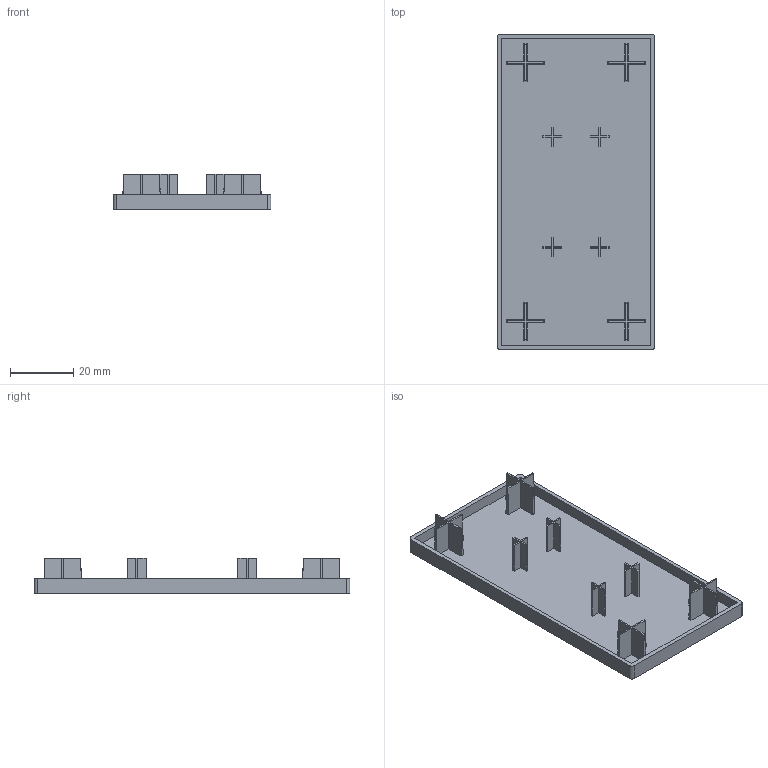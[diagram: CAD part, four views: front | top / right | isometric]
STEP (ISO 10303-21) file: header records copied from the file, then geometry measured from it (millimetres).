
FILE_DESCRIPTION(/* description */ (''),/* implementation_level */ '2;1');
FILE_NAME(/* name */ '\\AM-PUBLIC\Share\02.新型錄-2021\AM8系列\8系列-3D\02.8系列-AMC-端蓋\AMC-50100(B).stp',/* time_stamp */ '2021-07-21T11:36:58+08:00',/* author */ ('AM'),/* organization */ (''),/* preprocessor_version */ 'ST-DEVELOPER v16.5',/* originating_system */ 'Autodesk Inventor 2017',/* authorisation */ '');
FILE_SCHEMA (('AUTOMOTIVE_DESIGN { 1 0 10303 214 3 1 1 }'));
Length unit declared in the file: millimetre
Products named in the file (1): 2354-ENC50100-8
Bounding box: 50 x 100 x 11.3 mm (x, y, z)
Volume: 8814.8 mm3; surface area: 15342.8 mm2
Topology: 1 solids, 1 shells, 119 faces, 324 edges, 216 vertices
Faces by surface type: plane 99, cone 16, cylinder 4
Entity records: 3755 total; most frequent: CARTESIAN_POINT 724, ORIENTED_EDGE 648, DIRECTION 572, EDGE_CURVE 324, LINE 252, VECTOR 252, VERTEX_POINT 216, AXIS2_PLACEMENT_3D 160
